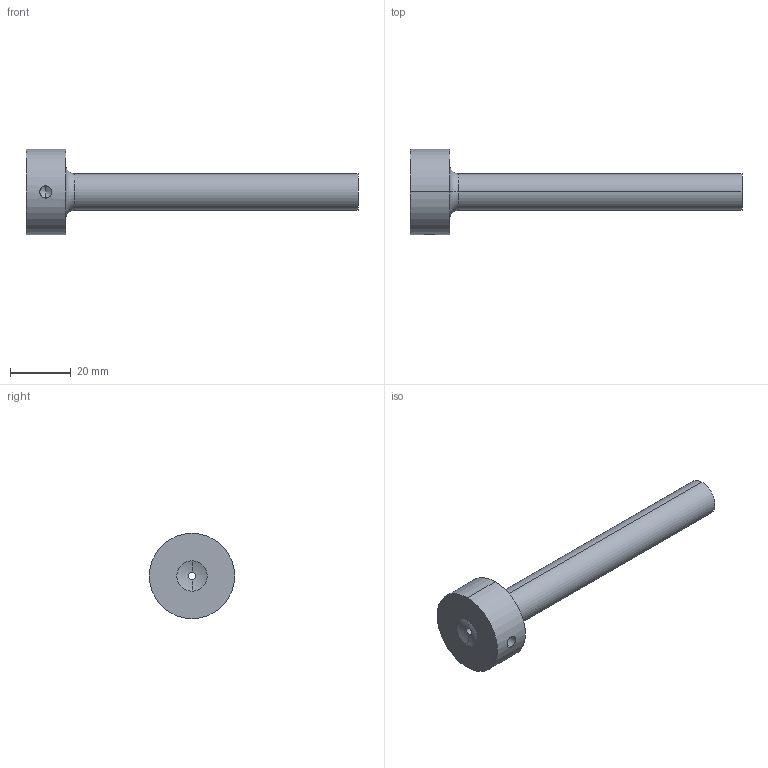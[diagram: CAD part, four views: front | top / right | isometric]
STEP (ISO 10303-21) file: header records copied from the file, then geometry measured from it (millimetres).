
FILE_DESCRIPTION (( 'STEP AP214' ), '1' );
FILE_NAME ('BR511 12X96X2,5X15,5.STEP', '2019-12-11T08:24:35', ( 'August' ), ( '' ), 'SwSTEP 2.0', 'SolidWorks 2018', '' );
FILE_SCHEMA (( 'AUTOMOTIVE_DESIGN' ));
Length unit declared in the file: millimetre
Products named in the file (1): BR511 12X96X2,5X15,5
Bounding box: 109 x 28 x 28 mm (x, y, z)
Volume: 17067.3 mm3; surface area: 7493.2 mm2
Topology: 1 solids, 1 shells, 17 faces, 36 edges, 21 vertices
Faces by surface type: cylinder 6, cone 4, torus 4, plane 3
Entity records: 538 total; most frequent: CARTESIAN_POINT 127, DIRECTION 90, ORIENTED_EDGE 68, AXIS2_PLACEMENT_3D 40, EDGE_CURVE 34, CIRCLE 22, EDGE_LOOP 21, VERTEX_POINT 21
